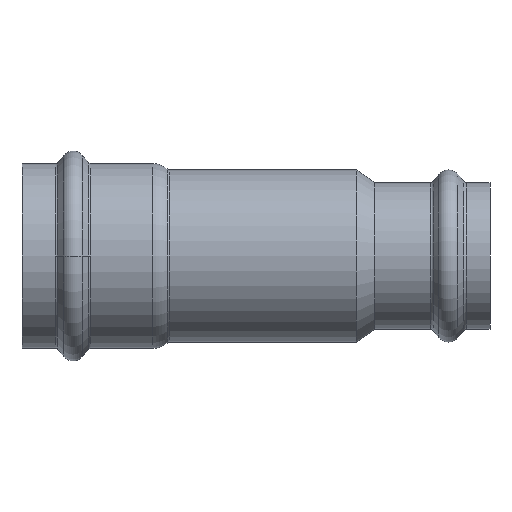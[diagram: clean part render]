
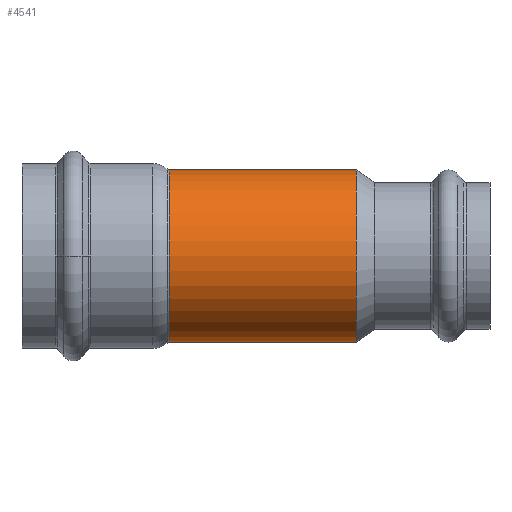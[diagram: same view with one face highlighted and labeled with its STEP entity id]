
A CAD part, front view. The second image highlights one B-rep face of the part: STEP entity #4541.
In plain terms, the highlighted cylindrical face has radius 27 mm (diameter 54 mm), a partial arc.
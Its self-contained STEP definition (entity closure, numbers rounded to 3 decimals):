
#110 = CARTESIAN_POINT ( 'NONE',  ( -78.479, 0., 0. ) ) ;
#221 = DIRECTION ( 'NONE',  ( -1., 0., 0. ) ) ;
#250 = VECTOR ( 'NONE', #1842, 1000. ) ;
#318 = CARTESIAN_POINT ( 'NONE',  ( -22.935, 0., 27. ) ) ;
#411 = DIRECTION ( 'NONE',  ( -1., 0., 0. ) ) ;
#789 = ORIENTED_EDGE ( 'NONE', *, *, #5208, .T. ) ;
#797 = LINE ( 'NONE', #4042, #2819 ) ;
#815 = ORIENTED_EDGE ( 'NONE', *, *, #1364, .T. ) ;
#1031 = DIRECTION ( 'NONE',  ( 0., 0., 1. ) ) ;
#1130 = CARTESIAN_POINT ( 'NONE',  ( 35.639, 0., 27. ) ) ;
#1203 = ORIENTED_EDGE ( 'NONE', *, *, #3521, .T. ) ;
#1364 = EDGE_CURVE ( 'NONE', #3983, #3414, #3128, .T. ) ;
#1384 = CARTESIAN_POINT ( 'NONE',  ( -78.479, 0., 27. ) ) ;
#1590 = VERTEX_POINT ( 'NONE', #1683 ) ;
#1683 = CARTESIAN_POINT ( 'NONE',  ( 35.639, 0., -27. ) ) ;
#1732 = ORIENTED_EDGE ( 'NONE', *, *, #4226, .F. ) ;
#1842 = DIRECTION ( 'NONE',  ( -1., 0., 0. ) ) ;
#1949 = CYLINDRICAL_SURFACE ( 'NONE', #2998, 27. ) ;
#2531 = CIRCLE ( 'NONE', #4921, 27. ) ;
#2819 = VECTOR ( 'NONE', #411, 1000. ) ;
#2982 = CARTESIAN_POINT ( 'NONE',  ( 35.639, 0., 0. ) ) ;
#2998 = AXIS2_PLACEMENT_3D ( 'NONE', #110, #4706, #1031 ) ;
#3128 = CIRCLE ( 'NONE', #4271, 27. ) ;
#3214 = CARTESIAN_POINT ( 'NONE',  ( -22.935, 0., 0. ) ) ;
#3414 = VERTEX_POINT ( 'NONE', #3919 ) ;
#3447 = DIRECTION ( 'NONE',  ( 0., 0., 1. ) ) ;
#3521 = EDGE_CURVE ( 'NONE', #4664, #3983, #5129, .T. ) ;
#3746 = DIRECTION ( 'NONE',  ( 0., 0., 1. ) ) ;
#3919 = CARTESIAN_POINT ( 'NONE',  ( -22.935, 0., -27. ) ) ;
#3983 = VERTEX_POINT ( 'NONE', #318 ) ;
#4042 = CARTESIAN_POINT ( 'NONE',  ( -78.479, 0., -27. ) ) ;
#4226 = EDGE_CURVE ( 'NONE', #1590, #3414, #797, .T. ) ;
#4271 = AXIS2_PLACEMENT_3D ( 'NONE', #3214, #4661, #3746 ) ;
#4541 = ADVANCED_FACE ( 'NONE', ( #4544 ), #1949, .T. ) ;
#4544 = FACE_OUTER_BOUND ( 'NONE', #4666, .T. ) ;
#4661 = DIRECTION ( 'NONE',  ( 1., 0., 0. ) ) ;
#4664 = VERTEX_POINT ( 'NONE', #1130 ) ;
#4666 = EDGE_LOOP ( 'NONE', ( #1732, #789, #1203, #815 ) ) ;
#4706 = DIRECTION ( 'NONE',  ( -1., 0., 0. ) ) ;
#4921 = AXIS2_PLACEMENT_3D ( 'NONE', #2982, #221, #3447 ) ;
#5129 = LINE ( 'NONE', #1384, #250 ) ;
#5208 = EDGE_CURVE ( 'NONE', #1590, #4664, #2531, .T. ) ;
